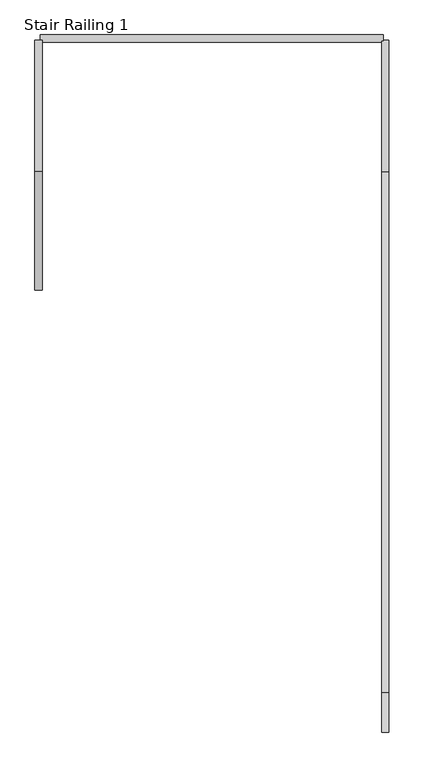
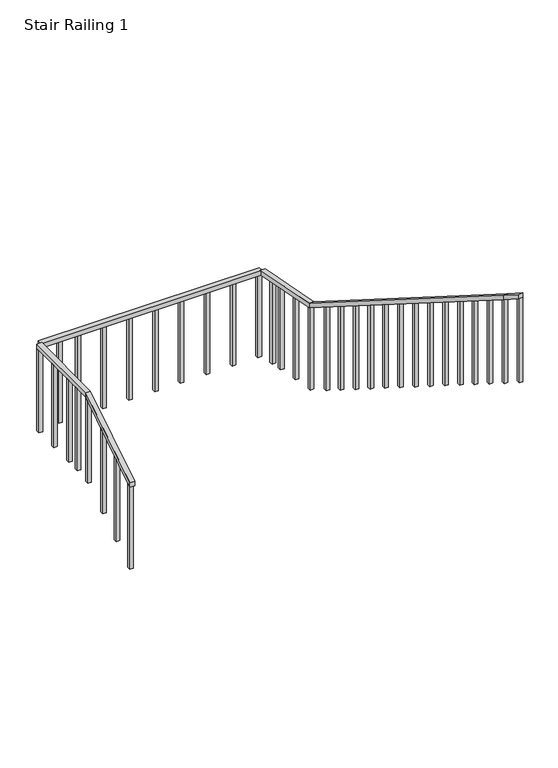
"""IFC4 building model written with IfcOpenShell, lengths in millimetres: railing geometry, Stair Railing 1."""

import ifcopenshell
import ifcopenshell.guid

model = None  # the IFC model being written
_history = None  # IfcOwnerHistory: only IFC2X3 demands one
_inside = {}  # id of a spatial element -> (the spatial element, [elements in it])
_under = {}  # id of a project, library or spatial element -> (it, [spatial elements below it])
_declared = {}  # id of a project -> (the project, [libraries it declares])
_typed = {}  # id of a type object -> (the type object, [elements of that type])
_made_of = {}  # id of a material, layer set ... -> (it, [elements and type objects made of it])


def new_model(schema):
    """Start an empty IFC model of exactly this schema.

    Asked for "IFC4X3", IfcOpenShell would pick the latest addendum, in which some entities
    have other attributes; the version numbers below select the first issue.
    IFC2X3 requires an IfcOwnerHistory on every rooted entity: one is made here for all.
    """
    global model, _history
    if schema == "IFC4X3":
        model = ifcopenshell.file(schema_version=(4, 3, 0, 0))
    else:
        model = ifcopenshell.file(schema=schema)
    _inside.clear()
    _under.clear()
    _declared.clear()
    _typed.clear()
    _made_of.clear()
    _history = None
    if model.schema == "IFC2X3":
        org = make("IfcOrganization", Name="unknown")
        user = make(
            "IfcPersonAndOrganization",
            ThePerson=make("IfcPerson", FamilyName="unknown"),
            TheOrganization=org,
        )
        app = make(
            "IfcApplication",
            ApplicationDeveloper=org,
            Version="unknown",
            ApplicationFullName="unknown",
            ApplicationIdentifier="unknown",
        )
        _history = make(
            "IfcOwnerHistory",
            OwningUser=user,
            OwningApplication=app,
            ChangeAction="ADDED",
            CreationDate=0,
        )
    return model


def make(cls, **values):
    """One entity of the class cls with the attributes given. An attribute that is None is left unset."""
    return model.create_entity(
        cls, **{name: value for name, value in values.items() if value is not None}
    )


def rooted(cls, **values):
    """An entity with a GlobalId (a new one), such as an element, a storey or a relation."""
    return make(cls, GlobalId=ifcopenshell.guid.new(), OwnerHistory=_history, **values)


def si_unit(unit_type, name, prefix=None):
    """IfcSIUnit, for example si_unit("LENGTHUNIT", "METRE", prefix="MILLI")."""
    return make("IfcSIUnit", UnitType=unit_type, Prefix=prefix, Name=name)


def assignment(units):
    """IfcUnitAssignment: the units of a project."""
    return None if units is None else make("IfcUnitAssignment", Units=units)


def point(xyz):
    """IfcCartesianPoint."""
    return None if xyz is None else make("IfcCartesianPoint", Coordinates=xyz)


def direction(xyz):
    """IfcDirection."""
    return None if xyz is None else make("IfcDirection", DirectionRatios=xyz)


def frame(location, z_axis=None, x_axis=None):
    """IfcAxis2Placement3D, a coordinate frame: its origin and axes. An axis left out is left unset."""
    return make(
        "IfcAxis2Placement3D",
        Location=point(location),
        Axis=direction(z_axis),
        RefDirection=direction(x_axis),
    )


def origin():
    """The frame at (0, 0, 0) with its axes left unset."""
    return frame((0.0, 0.0, 0.0))


def place(relative_to, where):
    """IfcLocalPlacement: puts the frame where relative to a parent placement (None: the world)."""
    return make(
        "IfcLocalPlacement", PlacementRelTo=relative_to, RelativePlacement=where
    )


def context(
    kind, dimensions, precision=None, world=None, true_north=None, identifier=None
):
    """IfcGeometricRepresentationContext, for example the 3D "Model" context."""
    return make(
        "IfcGeometricRepresentationContext",
        ContextIdentifier=identifier,
        ContextType=kind,
        CoordinateSpaceDimension=dimensions,
        Precision=precision,
        WorldCoordinateSystem=world,
        TrueNorth=true_north,
    )


def project(units=None, contexts=None):
    """IfcProject with its units and contexts."""
    return rooted(
        "IfcProject",
        Name="project",
        RepresentationContexts=contexts,
        UnitsInContext=assignment(units),
    )


def spatial(cls, under=None, at=None, **own):
    """A site, building, storey or space (cls), placed at a placement, below another one or the project."""
    s = rooted(cls, ObjectPlacement=at, **own)
    if under is not None:
        _under.setdefault(under.id(), (under, []))[1].append(s)
    return s


def polyline(points):
    """IfcPolyline through the points."""
    return make("IfcPolyline", Points=[point(p) for p in points])


def outline(outer, holes=None, kind="AREA"):
    """IfcArbitraryClosedProfileDef: a profile drawn as a closed curve; with holes, ...WithVoids."""
    if holes is None:
        return make("IfcArbitraryClosedProfileDef", ProfileType=kind, OuterCurve=outer)
    return make(
        "IfcArbitraryProfileDefWithVoids",
        ProfileType=kind,
        OuterCurve=outer,
        InnerCurves=holes,
    )


def extrude(swept, where, along, depth):
    """IfcExtrudedAreaSolid: the profile swept, set in the frame where, extruded along a direction by depth."""
    return make(
        "IfcExtrudedAreaSolid",
        SweptArea=swept,
        Position=where,
        ExtrudedDirection=direction(along),
        Depth=depth,
    )


def shape(context_of_items, identifier, shape_type, items):
    """IfcShapeRepresentation: the items that make up one representation, for example the "Body"."""
    return make(
        "IfcShapeRepresentation",
        ContextOfItems=context_of_items,
        RepresentationIdentifier=identifier,
        RepresentationType=shape_type,
        Items=items,
    )


def source(mapping_origin, context_of_items, identifier, shape_type, items):
    """IfcRepresentationMap: a shape defined once, which mapped items show again and again."""
    return make(
        "IfcRepresentationMap",
        MappingOrigin=mapping_origin,
        MappedRepresentation=shape(context_of_items, identifier, shape_type, items),
    )


def transform(
    local_origin,
    x_axis=None,
    y_axis=None,
    z_axis=None,
    scale=None,
    scale2=None,
    scale3=None,
    uniform=True,
):
    """IfcCartesianTransformationOperator3D, or its non-uniform kind. x_axis, y_axis, z_axis: its Axis1, 2, 3."""
    if uniform:
        return make(
            "IfcCartesianTransformationOperator3D",
            Axis1=direction(x_axis),
            Axis2=direction(y_axis),
            LocalOrigin=point(local_origin),
            Scale=scale,
            Axis3=direction(z_axis),
        )
    return make(
        "IfcCartesianTransformationOperator3DnonUniform",
        Axis1=direction(x_axis),
        Axis2=direction(y_axis),
        LocalOrigin=point(local_origin),
        Scale=scale,
        Axis3=direction(z_axis),
        Scale2=scale2,
        Scale3=scale3,
    )


def mapped(mapping_source, mapping_target):
    """IfcMappedItem: shows the shape of a source again, moved by a transform."""
    return make(
        "IfcMappedItem", MappingSource=mapping_source, MappingTarget=mapping_target
    )


def made_of(thing, what):
    """Note that an element or type object is made of a material, layer set ...; save() writes the relation."""
    if what is not None:
        _made_of.setdefault(what.id(), (what, []))[1].append(thing)
    return thing


def element(
    cls,
    number,
    at=None,
    inside=None,
    cuts=None,
    type_object=None,
    material=None,
    context=None,
    identifier="Body",
    shape_type=None,
    held_by="IfcProductDefinitionShape",
    body=None,
    shapes=None,
    **own,
):
    """One element of the class cls, such as IfcWall. Its Tag is "e" and its number.

    at: its placement. inside: the storey or other place that contains it. cuts: it is an
    opening in that element (IfcRelVoidsElement). A single representation is given by context,
    identifier, shape_type and body (its items); several are given by shapes. held_by: the class
    of the entity that holds the representations. save() writes the other relations.
    """
    e = rooted(cls, Tag="e%d" % number, ObjectPlacement=at, **own)
    if body is not None:
        shapes = [shape(context, identifier, shape_type, body)]
    if shapes is not None:
        e.Representation = make(held_by, Representations=shapes)
    if inside is not None:
        _inside.setdefault(inside.id(), (inside, []))[1].append(e)
    if cuts is not None:
        rooted(
            "IfcRelVoidsElement", RelatingBuildingElement=cuts, RelatedOpeningElement=e
        )
    if type_object is not None:
        _typed.setdefault(type_object.id(), (type_object, []))[1].append(e)
    return made_of(e, material)


def aggregate(whole, parts):
    """IfcRelAggregates: a whole, such as a stair, and the parts it consists of."""
    return rooted("IfcRelAggregates", RelatingObject=whole, RelatedObjects=parts)


def save(model, path):
    """Write the relations noted so far, then the file.

    IfcRelAggregates (storeys below a building ...), IfcRelContainedInSpatialStructure (elements
    in a storey), IfcRelDefinesByType, IfcRelAssociatesMaterial and IfcRelDeclares: one each for
    every whole, place, type object, material and project.
    """
    for whole, parts in _under.values():
        aggregate(whole, parts)
    for where, things in _inside.values():
        rooted(
            "IfcRelContainedInSpatialStructure",
            RelatedElements=things,
            RelatingStructure=where,
        )
    for kind, things in _typed.values():
        rooted("IfcRelDefinesByType", RelatedObjects=things, RelatingType=kind)
    for what, things in _made_of.values():
        rooted("IfcRelAssociatesMaterial", RelatedObjects=things, RelatingMaterial=what)
    for by, libraries in _declared.values():
        rooted("IfcRelDeclares", RelatingContext=by, RelatedDefinitions=libraries)
    model.write(path)


def stair_railing_1_7da9380d(model_context):
    return source(origin(), model_context, "Body", "SweptSolid", [
        extrude(outline(polyline([(55823.086508, 1696.4526316), (55823.086508, 1645.6526316), (54998.086508, 1116.2631579), (54998.086508, 1167.0631579), (55823.086508, 1696.4526316)])), frame((1037.1388725, 0.0, 0.0), z_axis=(1.0, 0.0, 0.0), x_axis=(0.0, 1.0, 0.0)), (0.0, 0.0, 1.0), 50.8),
        extrude(outline(polyline([(55036.186508, 1140.7113263), (55036.186508, 176.4631579), (54998.086508, 176.4631579), (54998.086508, 1116.2631579), (55036.186508, 1140.7113263)])), frame((1037.1388725, 0.0, 0.0), z_axis=(1.0, 0.0, 0.0), x_axis=(0.0, 1.0, 0.0)), (0.0, 0.0, 1.0), 38.1),
        extrude(outline(polyline([(55289.936508, 1303.5386947), (55289.936508, 339.2905263), (55251.836508, 339.2905263), (55251.836508, 1279.0905263), (55289.936508, 1303.5386947)])), frame((1037.1388725, 0.0, 0.0), z_axis=(1.0, 0.0, 0.0), x_axis=(0.0, 1.0, 0.0)), (0.0, 0.0, 1.0), 38.1),
        extrude(outline(polyline([(55543.686508, 1466.3660632), (55543.686508, 502.1178947), (55505.586508, 502.1178947), (55505.586508, 1441.9178947), (55543.686508, 1466.3660632)])), frame((1037.1388725, 0.0, 0.0), z_axis=(1.0, 0.0, 0.0), x_axis=(0.0, 1.0, 0.0)), (0.0, 0.0, 1.0), 38.1),
        extrude(outline(polyline([(55823.086508, 1645.6526316), (55823.086508, 681.4044632), (55784.986508, 681.4044632), (55784.986508, 1621.2044632), (55823.086508, 1645.6526316)])), frame((1037.1388725, 0.0, 0.0), z_axis=(1.0, 0.0, 0.0), x_axis=(0.0, 1.0, 0.0)), (0.0, 0.0, 1.0), 38.1),
        extrude(outline(polyline([(1037.1388725, 56737.486508), (1087.9388725, 56737.486508), (1087.9388725, 55823.086508), (1037.1388725, 55823.086508), (1037.1388725, 56737.486508)])), frame((0.0, 0.0, 1645.6526316), z_axis=(0.0, 0.0, 1.0), x_axis=(1.0, 0.0, 0.0)), (0.0, 0.0, 1.0), 50.8),
        extrude(outline(polyline([(1075.2388725, 55981.836508), (1037.1388725, 55981.836508), (1037.1388725, 56019.936508), (1075.2388725, 56019.936508), (1075.2388725, 55981.836508)])), frame((0.0, 0.0, 705.8526316), z_axis=(0.0, 0.0, 1.0), x_axis=(1.0, 0.0, 0.0)), (0.0, 0.0, 1.0), 939.8),
        extrude(outline(polyline([(1075.2388725, 56140.586508), (1037.1388725, 56140.586508), (1037.1388725, 56178.686508), (1075.2388725, 56178.686508), (1075.2388725, 56140.586508)])), frame((0.0, 0.0, 705.8526316), z_axis=(0.0, 0.0, 1.0), x_axis=(1.0, 0.0, 0.0)), (0.0, 0.0, 1.0), 939.8),
        extrude(outline(polyline([(1075.2388725, 56419.986508), (1037.1388725, 56419.986508), (1037.1388725, 56458.086508), (1075.2388725, 56458.086508), (1075.2388725, 56419.986508)])), frame((0.0, 0.0, 705.8526316), z_axis=(0.0, 0.0, 1.0), x_axis=(1.0, 0.0, 0.0)), (0.0, 0.0, 1.0), 939.8),
        extrude(outline(polyline([(1075.2388725, 56699.386508), (1037.1388725, 56699.386508), (1037.1388725, 56737.486508), (1075.2388725, 56737.486508), (1075.2388725, 56699.386508)])), frame((0.0, 0.0, 705.8526316), z_axis=(0.0, 0.0, 1.0), x_axis=(1.0, 0.0, 0.0)), (0.0, 0.0, 1.0), 939.8),
        extrude(outline(polyline([(3464.8480231, 56775.586508), (3464.8480231, 56724.786508), (1075.2388725, 56724.786508), (1075.2388725, 56775.586508), (3464.8480231, 56775.586508)])), frame((0.0, 0.0, 1645.6526316), z_axis=(0.0, 0.0, 1.0), x_axis=(1.0, 0.0, 0.0)), (0.0, 0.0, 1.0), 50.8),
        extrude(outline(polyline([(1273.0934478, 56737.486508), (1273.0934478, 56775.586508), (1311.1934478, 56775.586508), (1311.1934478, 56737.486508), (1273.0934478, 56737.486508)])), frame((0.0, 0.0, 705.8526316), z_axis=(0.0, 0.0, 1.0), x_axis=(1.0, 0.0, 0.0)), (0.0, 0.0, 1.0), 939.8),
        extrude(outline(polyline([(1470.9480231, 56737.486508), (1470.9480231, 56775.586508), (1509.0480231, 56775.586508), (1509.0480231, 56737.486508), (1470.9480231, 56737.486508)])), frame((0.0, 0.0, 705.8526316), z_axis=(0.0, 0.0, 1.0), x_axis=(1.0, 0.0, 0.0)), (0.0, 0.0, 1.0), 939.8),
        extrude(outline(polyline([(1750.3480231, 56737.486508), (1750.3480231, 56775.586508), (1788.4480231, 56775.586508), (1788.4480231, 56737.486508), (1750.3480231, 56737.486508)])), frame((0.0, 0.0, 705.8526316), z_axis=(0.0, 0.0, 1.0), x_axis=(1.0, 0.0, 0.0)), (0.0, 0.0, 1.0), 939.8),
        extrude(outline(polyline([(2029.7480231, 56737.486508), (2029.7480231, 56775.586508), (2067.8480231, 56775.586508), (2067.8480231, 56737.486508), (2029.7480231, 56737.486508)])), frame((0.0, 0.0, 705.8526316), z_axis=(0.0, 0.0, 1.0), x_axis=(1.0, 0.0, 0.0)), (0.0, 0.0, 1.0), 939.8),
        extrude(outline(polyline([(2309.1480231, 56737.486508), (2309.1480231, 56775.586508), (2347.2480231, 56775.586508), (2347.2480231, 56737.486508), (2309.1480231, 56737.486508)])), frame((0.0, 0.0, 705.8526316), z_axis=(0.0, 0.0, 1.0), x_axis=(1.0, 0.0, 0.0)), (0.0, 0.0, 1.0), 939.8),
        extrude(outline(polyline([(2588.5480231, 56737.486508), (2588.5480231, 56775.586508), (2626.6480231, 56775.586508), (2626.6480231, 56737.486508), (2588.5480231, 56737.486508)])), frame((0.0, 0.0, 705.8526316), z_axis=(0.0, 0.0, 1.0), x_axis=(1.0, 0.0, 0.0)), (0.0, 0.0, 1.0), 939.8),
        extrude(outline(polyline([(2867.9480231, 56737.486508), (2867.9480231, 56775.586508), (2906.0480231, 56775.586508), (2906.0480231, 56737.486508), (2867.9480231, 56737.486508)])), frame((0.0, 0.0, 705.8526316), z_axis=(0.0, 0.0, 1.0), x_axis=(1.0, 0.0, 0.0)), (0.0, 0.0, 1.0), 939.8),
        extrude(outline(polyline([(3147.3480231, 56737.486508), (3147.3480231, 56775.586508), (3185.4480231, 56775.586508), (3185.4480231, 56737.486508), (3147.3480231, 56737.486508)])), frame((0.0, 0.0, 705.8526316), z_axis=(0.0, 0.0, 1.0), x_axis=(1.0, 0.0, 0.0)), (0.0, 0.0, 1.0), 939.8),
        extrude(outline(polyline([(3426.7480231, 56737.486508), (3426.7480231, 56775.586508), (3464.8480231, 56775.586508), (3464.8480231, 56737.486508), (3426.7480231, 56737.486508)])), frame((0.0, 0.0, 705.8526316), z_axis=(0.0, 0.0, 1.0), x_axis=(1.0, 0.0, 0.0)), (0.0, 0.0, 1.0), 939.8),
        extrude(outline(polyline([(55823.086508, 1822.1157895), (55823.086508, 1872.9157895), (56737.486508, 1696.4526316), (56737.486508, 1645.6526316), (55823.086508, 1822.1157895)])), frame((3452.1480231, 0.0, 0.0), z_axis=(1.0, 0.0, 0.0), x_axis=(0.0, 1.0, 0.0)), (0.0, 0.0, 1.0), 50.8),
        extrude(outline(polyline([(56578.736508, 1676.2885965), (56578.736508, 736.4885965), (56540.636508, 736.4885965), (56540.636508, 1683.6412281), (56578.736508, 1676.2885965)])), frame((3464.8480231, 0.0, 0.0), z_axis=(1.0, 0.0, 0.0), x_axis=(0.0, 1.0, 0.0)), (0.0, 0.0, 1.0), 38.1),
        extrude(outline(polyline([(56419.986508, 1706.9245614), (56419.986508, 767.1245614), (56381.886508, 767.1245614), (56381.886508, 1714.277193), (56419.986508, 1706.9245614)])), frame((3464.8480231, 0.0, 0.0), z_axis=(1.0, 0.0, 0.0), x_axis=(0.0, 1.0, 0.0)), (0.0, 0.0, 1.0), 38.1),
        extrude(outline(polyline([(56140.586508, 1760.8438596), (56140.586508, 821.0438596), (56102.486508, 821.0438596), (56102.486508, 1768.1964912), (56140.586508, 1760.8438596)])), frame((3464.8480231, 0.0, 0.0), z_axis=(1.0, 0.0, 0.0), x_axis=(0.0, 1.0, 0.0)), (0.0, 0.0, 1.0), 38.1),
        extrude(outline(polyline([(55861.186508, 1814.7631579), (55861.186508, 874.9631579), (55823.086508, 874.9631579), (55823.086508, 1822.1157895), (55861.186508, 1814.7631579)])), frame((3464.8480231, 0.0, 0.0), z_axis=(1.0, 0.0, 0.0), x_axis=(0.0, 1.0, 0.0)), (0.0, 0.0, 1.0), 38.1),
        extrude(outline(polyline([(52190.886508, 4116.1368421), (52190.886508, 4166.9368421), (55823.086508, 1872.9157895), (55823.086508, 1822.1157895), (52190.886508, 4116.1368421)])), frame((3452.1480231, 0.0, 0.0), z_axis=(1.0, 0.0, 0.0), x_axis=(0.0, 1.0, 0.0)), (0.0, 0.0, 1.0), 50.8),
        extrude(outline(polyline([(55562.736508, 1986.5473684), (55562.736508, 1046.7473684), (55524.636508, 1046.7473684), (55524.636508, 2010.6105263), (55562.736508, 1986.5473684)])), frame((3464.8480231, 0.0, 0.0), z_axis=(1.0, 0.0, 0.0), x_axis=(0.0, 1.0, 0.0)), (0.0, 0.0, 1.0), 38.1),
        extrude(outline(polyline([(55302.386508, 2150.9789474), (55302.386508, 1211.1789474), (55264.286508, 1211.1789474), (55264.286508, 2175.0421053), (55302.386508, 2150.9789474)])), frame((3464.8480231, 0.0, 0.0), z_axis=(1.0, 0.0, 0.0), x_axis=(0.0, 1.0, 0.0)), (0.0, 0.0, 1.0), 38.1),
        extrude(outline(polyline([(55022.986508, 2327.4421053), (55022.986508, 1387.6421053), (54984.886508, 1387.6421053), (54984.886508, 2351.5052632), (55022.986508, 2327.4421053)])), frame((3464.8480231, 0.0, 0.0), z_axis=(1.0, 0.0, 0.0), x_axis=(0.0, 1.0, 0.0)), (0.0, 0.0, 1.0), 38.1),
        extrude(outline(polyline([(54743.586508, 2503.9052632), (54743.586508, 1564.1052632), (54705.486508, 1564.1052632), (54705.486508, 2527.9684211), (54743.586508, 2503.9052632)])), frame((3464.8480231, 0.0, 0.0), z_axis=(1.0, 0.0, 0.0), x_axis=(0.0, 1.0, 0.0)), (0.0, 0.0, 1.0), 38.1),
        extrude(outline(polyline([(54464.186508, 2680.3684211), (54464.186508, 1740.5684211), (54426.086508, 1740.5684211), (54426.086508, 2704.4315789), (54464.186508, 2680.3684211)])), frame((3464.8480231, 0.0, 0.0), z_axis=(1.0, 0.0, 0.0), x_axis=(0.0, 1.0, 0.0)), (0.0, 0.0, 1.0), 38.1),
        extrude(outline(polyline([(54184.786508, 2856.8315789), (54184.786508, 1917.0315789), (54146.686508, 1917.0315789), (54146.686508, 2880.8947368), (54184.786508, 2856.8315789)])), frame((3464.8480231, 0.0, 0.0), z_axis=(1.0, 0.0, 0.0), x_axis=(0.0, 1.0, 0.0)), (0.0, 0.0, 1.0), 38.1),
        extrude(outline(polyline([(53905.386508, 3033.2947368), (53905.386508, 2093.4947368), (53867.286508, 2093.4947368), (53867.286508, 3057.3578947), (53905.386508, 3033.2947368)])), frame((3464.8480231, 0.0, 0.0), z_axis=(1.0, 0.0, 0.0), x_axis=(0.0, 1.0, 0.0)), (0.0, 0.0, 1.0), 38.1),
        extrude(outline(polyline([(53625.986508, 3209.7578947), (53625.986508, 2269.9578947), (53587.886508, 2269.9578947), (53587.886508, 3233.8210526), (53625.986508, 3209.7578947)])), frame((3464.8480231, 0.0, 0.0), z_axis=(1.0, 0.0, 0.0), x_axis=(0.0, 1.0, 0.0)), (0.0, 0.0, 1.0), 38.1),
        extrude(outline(polyline([(53346.586508, 3386.2210526), (53346.586508, 2446.4210526), (53308.486508, 2446.4210526), (53308.486508, 3410.2842105), (53346.586508, 3386.2210526)])), frame((3464.8480231, 0.0, 0.0), z_axis=(1.0, 0.0, 0.0), x_axis=(0.0, 1.0, 0.0)), (0.0, 0.0, 1.0), 38.1),
        extrude(outline(polyline([(53067.186508, 3562.6842105), (53067.186508, 2622.8842105), (53029.086508, 2622.8842105), (53029.086508, 3586.7473684), (53067.186508, 3562.6842105)])), frame((3464.8480231, 0.0, 0.0), z_axis=(1.0, 0.0, 0.0), x_axis=(0.0, 1.0, 0.0)), (0.0, 0.0, 1.0), 38.1),
        extrude(outline(polyline([(52787.786508, 3739.1473684), (52787.786508, 2799.3473684), (52749.686508, 2799.3473684), (52749.686508, 3763.2105263), (52787.786508, 3739.1473684)])), frame((3464.8480231, 0.0, 0.0), z_axis=(1.0, 0.0, 0.0), x_axis=(0.0, 1.0, 0.0)), (0.0, 0.0, 1.0), 38.1),
        extrude(outline(polyline([(52508.386508, 3915.6105263), (52508.386508, 2975.8105263), (52470.286508, 2975.8105263), (52470.286508, 3939.6736842), (52508.386508, 3915.6105263)])), frame((3464.8480231, 0.0, 0.0), z_axis=(1.0, 0.0, 0.0), x_axis=(0.0, 1.0, 0.0)), (0.0, 0.0, 1.0), 38.1),
        extrude(outline(polyline([(52228.986508, 4092.0736842), (52228.986508, 3152.2736842), (52190.886508, 3152.2736842), (52190.886508, 4116.1368421), (52228.986508, 4092.0736842)])), frame((3464.8480231, 0.0, 0.0), z_axis=(1.0, 0.0, 0.0), x_axis=(0.0, 1.0, 0.0)), (0.0, 0.0, 1.0), 38.1),
        extrude(outline(polyline([(51911.486508, 4292.6), (51911.486508, 4343.4), (52190.886508, 4166.9368421), (52190.886508, 4116.1368421), (51911.486508, 4292.6)])), frame((3452.1480231, 0.0, 0.0), z_axis=(1.0, 0.0, 0.0), x_axis=(0.0, 1.0, 0.0)), (0.0, 0.0, 1.0), 50.8),
        extrude(outline(polyline([(51949.586508, 4268.5368421), (51949.586508, 3328.7368421), (51911.486508, 3328.7368421), (51911.486508, 4292.6), (51949.586508, 4268.5368421)])), frame((3464.8480231, 0.0, 0.0), z_axis=(1.0, 0.0, 0.0), x_axis=(0.0, 1.0, 0.0)), (0.0, 0.0, 1.0), 38.1),
    ])


if __name__ == "__main__":
    model = new_model("IFC4")
    model_context = context("Model", 3, world=origin())
    ifc_project = project(units=[si_unit("LENGTHUNIT", "METRE", prefix="MILLI")], contexts=[model_context])
    site = spatial("IfcSite", under=ifc_project)
    building = spatial("IfcBuilding", under=site)
    placement = place(None, origin())
    stair_railing_1_shape = stair_railing_1_7da9380d(model_context)
    element("IfcRailing", 1, ObjectType="Stair Railing 1", at=placement, inside=building, context=model_context, shape_type="MappedRepresentation", body=[
        mapped(stair_railing_1_shape, transform((0.0, 0.0, 0.0), x_axis=(1.0, 0.0, 0.0), y_axis=(0.0, 1.0, 0.0), z_axis=(0.0, 0.0, 1.0))),
    ])
    save(model, "model.ifc")
